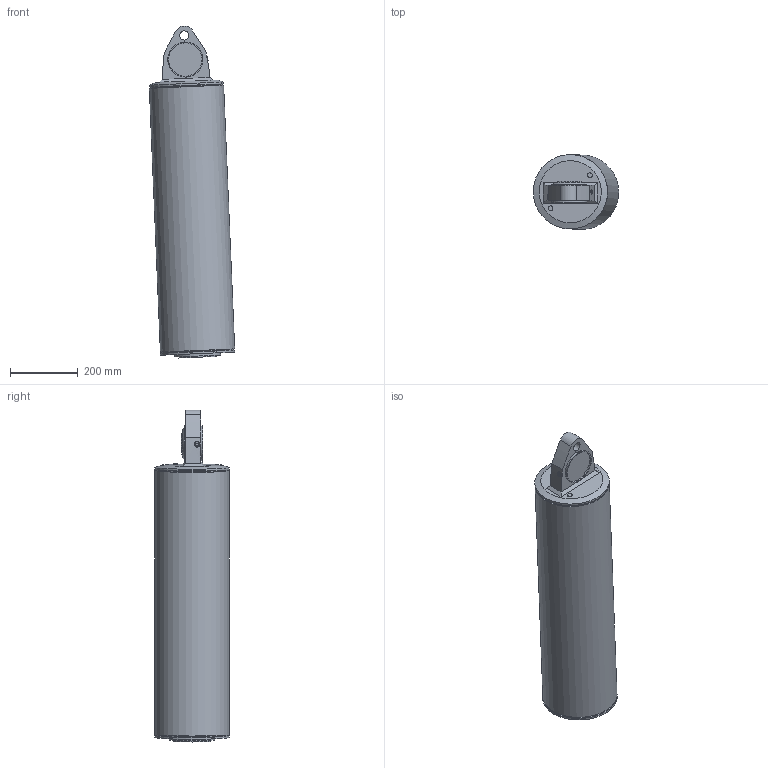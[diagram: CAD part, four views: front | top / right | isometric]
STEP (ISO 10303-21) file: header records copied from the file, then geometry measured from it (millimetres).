
FILE_DESCRIPTION (( 'STEP AP214' ), '1' );
FILE_NAME ('IRB77X0_All_OC_00_CYL_CAD.step', '2026-01-28T09:36:55', ( '' ), ( '' ), 'SwSTEP 2.0', 'SolidWorks 2024', '' );
FILE_SCHEMA (( 'AUTOMOTIVE_DESIGN' ));
Length unit declared in the file: millimetre
Products named in the file (1): IRB77X0_All_OC_00_CYL_CAD
Bounding box: 253.25 x 220 x 982.48 mm (x, y, z)
Volume: 25304063.9 mm3; surface area: 948003.2 mm2
Topology: 1 solids, 1 shells, 71 faces, 151 edges, 101 vertices
Faces by surface type: plane 32, cylinder 24, cone 13, torus 1, sphere 1
Full cylindrical faces by diameter (mm): 8 x1, 12 x1, 14 x2, 16 x2, 27 x1, 99 x1, 100 x1, 101 x1, 104 x1, 135 x1, 212.5 x2, 220 x3
Entity records: 2767 total; most frequent: CARTESIAN_POINT 539, DIRECTION 311, ORIENTED_EDGE 236, AXIS2_PLACEMENT_3D 139, EDGE_CURVE 118, EDGE_LOOP 117, VERTEX_POINT 93, FACE_OUTER_BOUND 90
